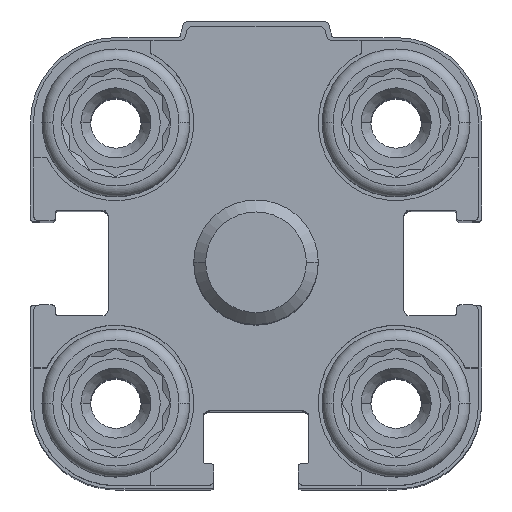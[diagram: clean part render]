
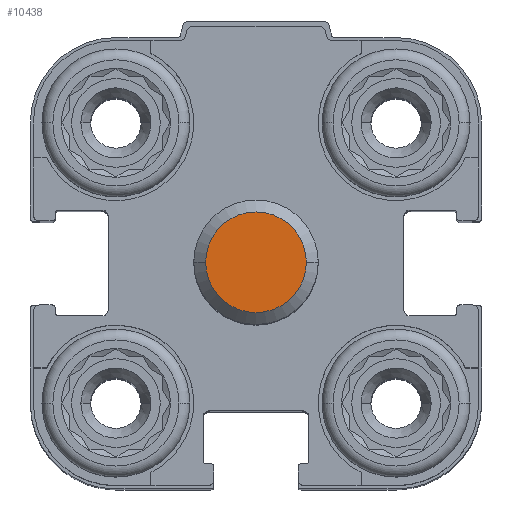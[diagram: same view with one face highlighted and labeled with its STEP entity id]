
A CAD part, top view. The second image highlights one B-rep face of the part: STEP entity #10438.
In plain terms, the highlighted planar face has unit normal (0, 0, 1).
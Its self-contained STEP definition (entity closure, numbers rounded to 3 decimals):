
#143 = CARTESIAN_POINT ( 'NONE',  ( 0., 0., 24.5 ) ) ;
#390 = CIRCLE ( 'NONE', #13290, 3.233 ) ;
#430 = EDGE_CURVE ( 'NONE', #5250, #8320, #5338, .T. ) ;
#1405 = PLANE ( 'NONE',  #8911 ) ;
#2756 = DIRECTION ( 'NONE',  ( 0., 0., -1. ) ) ;
#3331 = AXIS2_PLACEMENT_3D ( 'NONE', #13591, #5417, #4067 ) ;
#3925 = CARTESIAN_POINT ( 'NONE',  ( -3.233, 0., 24.5 ) ) ;
#4067 = DIRECTION ( 'NONE',  ( -1., 0., 0. ) ) ;
#5250 = VERTEX_POINT ( 'NONE', #3925 ) ;
#5338 = CIRCLE ( 'NONE', #3331, 3.233 ) ;
#5374 = CARTESIAN_POINT ( 'NONE',  ( 0., 0., 24.5 ) ) ;
#5417 = DIRECTION ( 'NONE',  ( 0., 0., -1. ) ) ;
#5966 = ORIENTED_EDGE ( 'NONE', *, *, #430, .F. ) ;
#5988 = DIRECTION ( 'NONE',  ( -1., 0., 0. ) ) ;
#8172 = DIRECTION ( 'NONE',  ( 0., 0., -1. ) ) ;
#8320 = VERTEX_POINT ( 'NONE', #12764 ) ;
#8911 = AXIS2_PLACEMENT_3D ( 'NONE', #143, #2756, #17656 ) ;
#10438 = ADVANCED_FACE ( 'NONE', ( #16313 ), #1405, .F. ) ;
#12643 = EDGE_CURVE ( 'NONE', #8320, #5250, #390, .T. ) ;
#12764 = CARTESIAN_POINT ( 'NONE',  ( 3.233, 0., 24.5 ) ) ;
#13290 = AXIS2_PLACEMENT_3D ( 'NONE', #5374, #8172, #5988 ) ;
#13591 = CARTESIAN_POINT ( 'NONE',  ( 0., 0., 24.5 ) ) ;
#16232 = EDGE_LOOP ( 'NONE', ( #5966, #16829 ) ) ;
#16313 = FACE_OUTER_BOUND ( 'NONE', #16232, .T. ) ;
#16829 = ORIENTED_EDGE ( 'NONE', *, *, #12643, .F. ) ;
#17656 = DIRECTION ( 'NONE',  ( 0., 1., 0. ) ) ;
